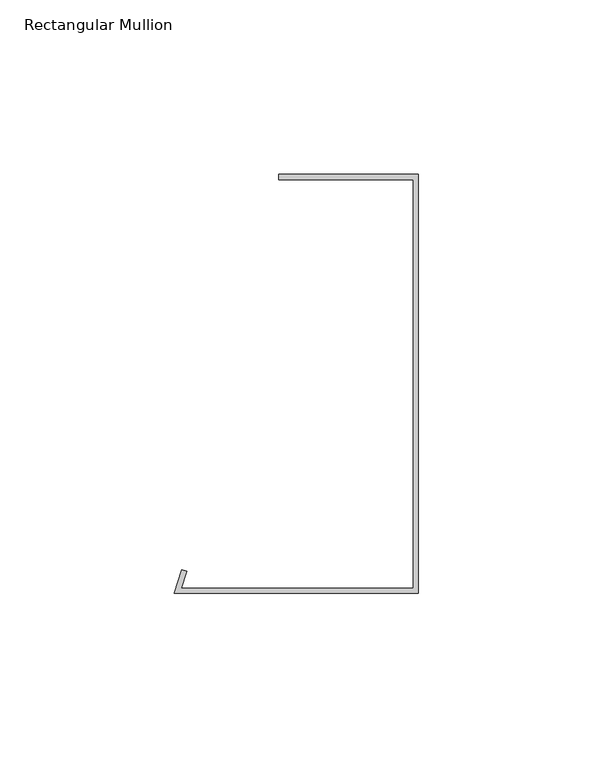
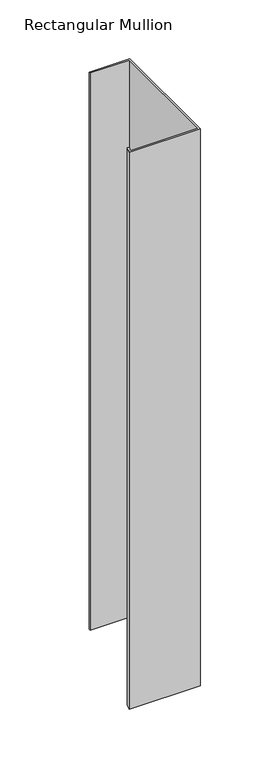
"""IFC4 building model written with IfcOpenShell, lengths in millimetres: member geometry, Rectangular Mullion : Danpal_VRS_Top-Mullion."""

import ifcopenshell
import ifcopenshell.guid

model = None  # the IFC model being written
_history = None  # IfcOwnerHistory: only IFC2X3 demands one
_inside = {}  # id of a spatial element -> (the spatial element, [elements in it])
_under = {}  # id of a project, library or spatial element -> (it, [spatial elements below it])
_declared = {}  # id of a project -> (the project, [libraries it declares])
_typed = {}  # id of a type object -> (the type object, [elements of that type])
_made_of = {}  # id of a material, layer set ... -> (it, [elements and type objects made of it])


def new_model(schema):
    """Start an empty IFC model of exactly this schema.

    Asked for "IFC4X3", IfcOpenShell would pick the latest addendum, in which some entities
    have other attributes; the version numbers below select the first issue.
    IFC2X3 requires an IfcOwnerHistory on every rooted entity: one is made here for all.
    """
    global model, _history
    if schema == "IFC4X3":
        model = ifcopenshell.file(schema_version=(4, 3, 0, 0))
    else:
        model = ifcopenshell.file(schema=schema)
    _inside.clear()
    _under.clear()
    _declared.clear()
    _typed.clear()
    _made_of.clear()
    _history = None
    if model.schema == "IFC2X3":
        org = make("IfcOrganization", Name="unknown")
        user = make(
            "IfcPersonAndOrganization",
            ThePerson=make("IfcPerson", FamilyName="unknown"),
            TheOrganization=org,
        )
        app = make(
            "IfcApplication",
            ApplicationDeveloper=org,
            Version="unknown",
            ApplicationFullName="unknown",
            ApplicationIdentifier="unknown",
        )
        _history = make(
            "IfcOwnerHistory",
            OwningUser=user,
            OwningApplication=app,
            ChangeAction="ADDED",
            CreationDate=0,
        )
    return model


def make(cls, **values):
    """One entity of the class cls with the attributes given. An attribute that is None is left unset."""
    return model.create_entity(
        cls, **{name: value for name, value in values.items() if value is not None}
    )


def rooted(cls, **values):
    """An entity with a GlobalId (a new one), such as an element, a storey or a relation."""
    return make(cls, GlobalId=ifcopenshell.guid.new(), OwnerHistory=_history, **values)


def si_unit(unit_type, name, prefix=None):
    """IfcSIUnit, for example si_unit("LENGTHUNIT", "METRE", prefix="MILLI")."""
    return make("IfcSIUnit", UnitType=unit_type, Prefix=prefix, Name=name)


def assignment(units):
    """IfcUnitAssignment: the units of a project."""
    return None if units is None else make("IfcUnitAssignment", Units=units)


def point(xyz):
    """IfcCartesianPoint."""
    return None if xyz is None else make("IfcCartesianPoint", Coordinates=xyz)


def direction(xyz):
    """IfcDirection."""
    return None if xyz is None else make("IfcDirection", DirectionRatios=xyz)


def frame(location, z_axis=None, x_axis=None):
    """IfcAxis2Placement3D, a coordinate frame: its origin and axes. An axis left out is left unset."""
    return make(
        "IfcAxis2Placement3D",
        Location=point(location),
        Axis=direction(z_axis),
        RefDirection=direction(x_axis),
    )


def origin():
    """The frame at (0, 0, 0) with its axes left unset."""
    return frame((0.0, 0.0, 0.0))


def place(relative_to, where):
    """IfcLocalPlacement: puts the frame where relative to a parent placement (None: the world)."""
    return make(
        "IfcLocalPlacement", PlacementRelTo=relative_to, RelativePlacement=where
    )


def context(
    kind, dimensions, precision=None, world=None, true_north=None, identifier=None
):
    """IfcGeometricRepresentationContext, for example the 3D "Model" context."""
    return make(
        "IfcGeometricRepresentationContext",
        ContextIdentifier=identifier,
        ContextType=kind,
        CoordinateSpaceDimension=dimensions,
        Precision=precision,
        WorldCoordinateSystem=world,
        TrueNorth=true_north,
    )


def project(units=None, contexts=None):
    """IfcProject with its units and contexts."""
    return rooted(
        "IfcProject",
        Name="project",
        RepresentationContexts=contexts,
        UnitsInContext=assignment(units),
    )


def spatial(cls, under=None, at=None, **own):
    """A site, building, storey or space (cls), placed at a placement, below another one or the project."""
    s = rooted(cls, ObjectPlacement=at, **own)
    if under is not None:
        _under.setdefault(under.id(), (under, []))[1].append(s)
    return s


def polyline(points):
    """IfcPolyline through the points."""
    return make("IfcPolyline", Points=[point(p) for p in points])


def outline(outer, holes=None, kind="AREA"):
    """IfcArbitraryClosedProfileDef: a profile drawn as a closed curve; with holes, ...WithVoids."""
    if holes is None:
        return make("IfcArbitraryClosedProfileDef", ProfileType=kind, OuterCurve=outer)
    return make(
        "IfcArbitraryProfileDefWithVoids",
        ProfileType=kind,
        OuterCurve=outer,
        InnerCurves=holes,
    )


def extrude(swept, where, along, depth):
    """IfcExtrudedAreaSolid: the profile swept, set in the frame where, extruded along a direction by depth."""
    return make(
        "IfcExtrudedAreaSolid",
        SweptArea=swept,
        Position=where,
        ExtrudedDirection=direction(along),
        Depth=depth,
    )


def shape(context_of_items, identifier, shape_type, items):
    """IfcShapeRepresentation: the items that make up one representation, for example the "Body"."""
    return make(
        "IfcShapeRepresentation",
        ContextOfItems=context_of_items,
        RepresentationIdentifier=identifier,
        RepresentationType=shape_type,
        Items=items,
    )


def source(mapping_origin, context_of_items, identifier, shape_type, items):
    """IfcRepresentationMap: a shape defined once, which mapped items show again and again."""
    return make(
        "IfcRepresentationMap",
        MappingOrigin=mapping_origin,
        MappedRepresentation=shape(context_of_items, identifier, shape_type, items),
    )


def transform(
    local_origin,
    x_axis=None,
    y_axis=None,
    z_axis=None,
    scale=None,
    scale2=None,
    scale3=None,
    uniform=True,
):
    """IfcCartesianTransformationOperator3D, or its non-uniform kind. x_axis, y_axis, z_axis: its Axis1, 2, 3."""
    if uniform:
        return make(
            "IfcCartesianTransformationOperator3D",
            Axis1=direction(x_axis),
            Axis2=direction(y_axis),
            LocalOrigin=point(local_origin),
            Scale=scale,
            Axis3=direction(z_axis),
        )
    return make(
        "IfcCartesianTransformationOperator3DnonUniform",
        Axis1=direction(x_axis),
        Axis2=direction(y_axis),
        LocalOrigin=point(local_origin),
        Scale=scale,
        Axis3=direction(z_axis),
        Scale2=scale2,
        Scale3=scale3,
    )


def mapped(mapping_source, mapping_target):
    """IfcMappedItem: shows the shape of a source again, moved by a transform."""
    return make(
        "IfcMappedItem", MappingSource=mapping_source, MappingTarget=mapping_target
    )


def made_of(thing, what):
    """Note that an element or type object is made of a material, layer set ...; save() writes the relation."""
    if what is not None:
        _made_of.setdefault(what.id(), (what, []))[1].append(thing)
    return thing


def element(
    cls,
    number,
    at=None,
    inside=None,
    cuts=None,
    type_object=None,
    material=None,
    context=None,
    identifier="Body",
    shape_type=None,
    held_by="IfcProductDefinitionShape",
    body=None,
    shapes=None,
    **own,
):
    """One element of the class cls, such as IfcWall. Its Tag is "e" and its number.

    at: its placement. inside: the storey or other place that contains it. cuts: it is an
    opening in that element (IfcRelVoidsElement). A single representation is given by context,
    identifier, shape_type and body (its items); several are given by shapes. held_by: the class
    of the entity that holds the representations. save() writes the other relations.
    """
    e = rooted(cls, Tag="e%d" % number, ObjectPlacement=at, **own)
    if body is not None:
        shapes = [shape(context, identifier, shape_type, body)]
    if shapes is not None:
        e.Representation = make(held_by, Representations=shapes)
    if inside is not None:
        _inside.setdefault(inside.id(), (inside, []))[1].append(e)
    if cuts is not None:
        rooted(
            "IfcRelVoidsElement", RelatingBuildingElement=cuts, RelatedOpeningElement=e
        )
    if type_object is not None:
        _typed.setdefault(type_object.id(), (type_object, []))[1].append(e)
    return made_of(e, material)


def aggregate(whole, parts):
    """IfcRelAggregates: a whole, such as a stair, and the parts it consists of."""
    return rooted("IfcRelAggregates", RelatingObject=whole, RelatedObjects=parts)


def save(model, path):
    """Write the relations noted so far, then the file.

    IfcRelAggregates (storeys below a building ...), IfcRelContainedInSpatialStructure (elements
    in a storey), IfcRelDefinesByType, IfcRelAssociatesMaterial and IfcRelDeclares: one each for
    every whole, place, type object, material and project.
    """
    for whole, parts in _under.values():
        aggregate(whole, parts)
    for where, things in _inside.values():
        rooted(
            "IfcRelContainedInSpatialStructure",
            RelatedElements=things,
            RelatingStructure=where,
        )
    for kind, things in _typed.values():
        rooted("IfcRelDefinesByType", RelatedObjects=things, RelatingType=kind)
    for what, things in _made_of.values():
        rooted("IfcRelAssociatesMaterial", RelatedObjects=things, RelatingMaterial=what)
    for by, libraries in _declared.values():
        rooted("IfcRelDeclares", RelatingContext=by, RelatedDefinitions=libraries)
    model.write(path)


def rectangular_mullion_2f2f3dde(model_context):
    return source(origin(), model_context, "Body", "SweptSolid", [
        extrude(outline(polyline([(-67.9638912, -5.7223798), (-1.5067119, -5.7261384), (-1.500085, 111.4490233), (-40.0000849, 111.4512007), (-39.9999999, 112.9534463), (0.0, 112.9511841), (-0.0067968, -7.2284689), (-70.0067967, -7.22451), (-67.8977574, -0.494831), (-66.4665939, -0.9446924), (-67.9638912, -5.7223798)])), frame((0.0, 0.0, -579.6478591), z_axis=(0.0, 0.0, 1.0), x_axis=(1.0, 0.0, 0.0)), (0.0, 0.0, 1.0), 579.6478591),
    ])


if __name__ == "__main__":
    model = new_model("IFC4")
    model_context = context("Model", 3, world=origin())
    ifc_project = project(units=[si_unit("LENGTHUNIT", "METRE", prefix="MILLI")], contexts=[model_context])
    site = spatial("IfcSite", under=ifc_project)
    building = spatial("IfcBuilding", under=site)
    placement = place(None, origin())
    rectangular_mullion_shape = rectangular_mullion_2f2f3dde(model_context)
    element("IfcMember", 1, ObjectType="Rectangular Mullion : Danpal_VRS_Top-Mullion", at=placement, inside=building, context=model_context, shape_type="MappedRepresentation", body=[
        mapped(rectangular_mullion_shape, transform((0.0, 0.0, 0.0), x_axis=(1.0, 0.0, 0.0), y_axis=(0.0, 1.0, 0.0), z_axis=(0.0, 0.0, 1.0))),
    ])
    save(model, "model.ifc")
